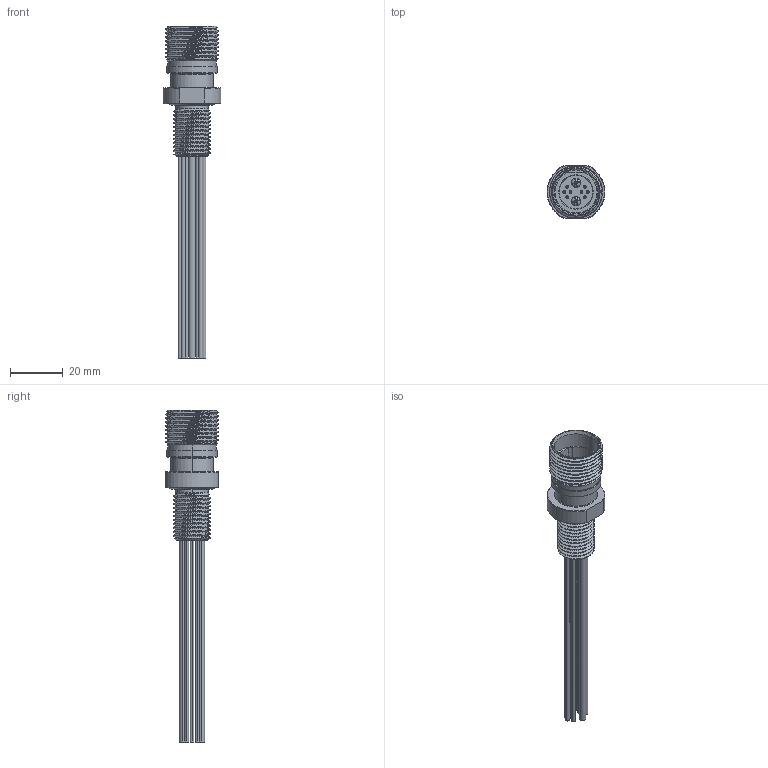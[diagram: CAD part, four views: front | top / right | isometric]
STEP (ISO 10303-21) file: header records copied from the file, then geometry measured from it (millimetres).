
FILE_DESCRIPTION (( 'STEP AP203' ), '1' );
FILE_NAME ('C14-1110H0-SS.STEP', '2023-11-24T18:44:48', ( '' ), ( '' ), 'SwSTEP 2.0', 'SolidWorks 2022', '' );
FILE_SCHEMA (( 'CONFIG_CONTROL_DESIGN' ));
Length unit declared in the file: millimetre
Products named in the file (1): C14-1110H0-SS
Bounding box: 22 x 20 x 126 mm (x, y, z)
Volume: 9672.7 mm3; surface area: 10128.7 mm2
Topology: 2 solids, 2 shells, 264 faces, 650 edges, 402 vertices
Faces by surface type: cylinder 107, plane 51, torus 42, cone 42, sphere 16, bspline 6
Entity records: 13799 total; most frequent: CARTESIAN_POINT 7678, DIRECTION 1309, ORIENTED_EDGE 1268, EDGE_CURVE 634, AXIS2_PLACEMENT_3D 563, VERTEX_POINT 402, CIRCLE 304, EDGE_LOOP 294
